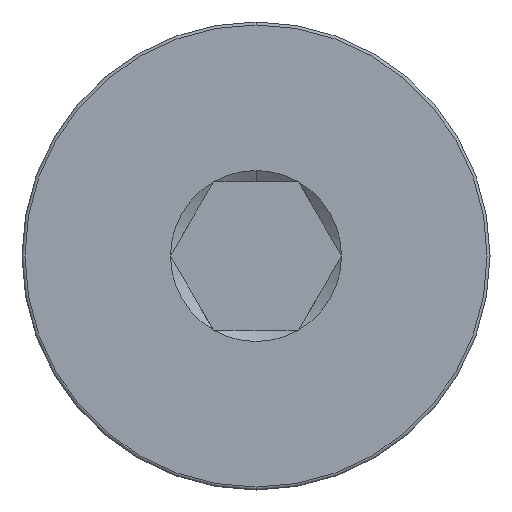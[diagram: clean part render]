
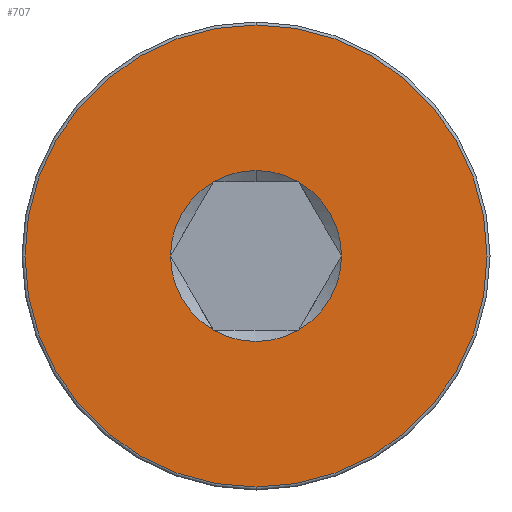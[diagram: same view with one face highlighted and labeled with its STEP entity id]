
A CAD part, left-side view. The second image highlights one B-rep face of the part: STEP entity #707.
In plain terms, the highlighted planar face has unit normal (-1, 0, 0).
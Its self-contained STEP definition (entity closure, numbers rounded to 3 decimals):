
#3 = AXIS2_PLACEMENT_3D ( 'NONE', #218, #152, #458 ) ;
#9 = EDGE_CURVE ( 'NONE', #222, #651, #524, .T. ) ;
#39 = CARTESIAN_POINT ( 'NONE',  ( 0., 2.887, 0. ) ) ;
#59 = CIRCLE ( 'NONE', #430, 2.887 ) ;
#61 = DIRECTION ( 'NONE',  ( 0., 0., -1. ) ) ;
#79 = CIRCLE ( 'NONE', #403, 2.887 ) ;
#80 = AXIS2_PLACEMENT_3D ( 'NONE', #111, #719, #411 ) ;
#107 = EDGE_CURVE ( 'NONE', #651, #222, #244, .T. ) ;
#111 = CARTESIAN_POINT ( 'NONE',  ( 0., 0., 0. ) ) ;
#112 = AXIS2_PLACEMENT_3D ( 'NONE', #454, #637, #280 ) ;
#122 = DIRECTION ( 'NONE',  ( 1., 0., 0. ) ) ;
#126 = CARTESIAN_POINT ( 'NONE',  ( 0., 0., 0. ) ) ;
#128 = DIRECTION ( 'NONE',  ( 0., 0., 1. ) ) ;
#131 = DIRECTION ( 'NONE',  ( 1., 0., 0. ) ) ;
#141 = AXIS2_PLACEMENT_3D ( 'NONE', #495, #667, #128 ) ;
#145 = ORIENTED_EDGE ( 'NONE', *, *, #513, .T. ) ;
#147 = CARTESIAN_POINT ( 'NONE',  ( 0., 0., 2.887 ) ) ;
#152 = DIRECTION ( 'NONE',  ( 1., 0., 0. ) ) ;
#156 = AXIS2_PLACEMENT_3D ( 'NONE', #177, #301, #307 ) ;
#159 = VERTEX_POINT ( 'NONE', #481 ) ;
#161 = EDGE_CURVE ( 'NONE', #578, #185, #59, .T. ) ;
#170 = CIRCLE ( 'NONE', #525, 2.887 ) ;
#177 = CARTESIAN_POINT ( 'NONE',  ( 0., 0., 0. ) ) ;
#179 = CARTESIAN_POINT ( 'NONE',  ( 0., 0., 0. ) ) ;
#185 = VERTEX_POINT ( 'NONE', #147 ) ;
#189 = ORIENTED_EDGE ( 'NONE', *, *, #474, .T. ) ;
#193 = AXIS2_PLACEMENT_3D ( 'NONE', #179, #399, #660 ) ;
#218 = CARTESIAN_POINT ( 'NONE',  ( 0., 0., 0. ) ) ;
#219 = AXIS2_PLACEMENT_3D ( 'NONE', #266, #625, #563 ) ;
#222 = VERTEX_POINT ( 'NONE', #335 ) ;
#228 = CARTESIAN_POINT ( 'NONE',  ( 0., 1.443, 2.5 ) ) ;
#229 = CARTESIAN_POINT ( 'NONE',  ( 0., -1.443, -2.5 ) ) ;
#244 = CIRCLE ( 'NONE', #141, 7.8 ) ;
#254 = CARTESIAN_POINT ( 'NONE',  ( 0., 0., 0. ) ) ;
#255 = EDGE_CURVE ( 'NONE', #336, #350, #712, .T. ) ;
#266 = CARTESIAN_POINT ( 'NONE',  ( 0., 0., 0. ) ) ;
#280 = DIRECTION ( 'NONE',  ( 0., 0., -1. ) ) ;
#281 = EDGE_CURVE ( 'NONE', #159, #754, #670, .T. ) ;
#291 = EDGE_CURVE ( 'NONE', #350, #353, #560, .T. ) ;
#301 = DIRECTION ( 'NONE',  ( -1., 0., 0. ) ) ;
#307 = DIRECTION ( 'NONE',  ( 0., 0., 1. ) ) ;
#335 = CARTESIAN_POINT ( 'NONE',  ( 0., 0., -7.8 ) ) ;
#336 = VERTEX_POINT ( 'NONE', #717 ) ;
#350 = VERTEX_POINT ( 'NONE', #779 ) ;
#353 = VERTEX_POINT ( 'NONE', #229 ) ;
#376 = CARTESIAN_POINT ( 'NONE',  ( 0., 0., 0. ) ) ;
#384 = ORIENTED_EDGE ( 'NONE', *, *, #107, .T. ) ;
#399 = DIRECTION ( 'NONE',  ( -1., 0., 0. ) ) ;
#403 = AXIS2_PLACEMENT_3D ( 'NONE', #254, #131, #480 ) ;
#406 = EDGE_LOOP ( 'NONE', ( #145, #508, #189, #595, #503, #449, #655 ) ) ;
#407 = FACE_BOUND ( 'NONE', #406, .T. ) ;
#411 = DIRECTION ( 'NONE',  ( 0., 0., -1. ) ) ;
#414 = EDGE_LOOP ( 'NONE', ( #384, #520 ) ) ;
#430 = AXIS2_PLACEMENT_3D ( 'NONE', #376, #122, #737 ) ;
#449 = ORIENTED_EDGE ( 'NONE', *, *, #722, .T. ) ;
#454 = CARTESIAN_POINT ( 'NONE',  ( 0., 0., 0. ) ) ;
#458 = DIRECTION ( 'NONE',  ( 0., 0., -1. ) ) ;
#459 = CIRCLE ( 'NONE', #80, 2.887 ) ;
#474 = EDGE_CURVE ( 'NONE', #185, #336, #170, .T. ) ;
#480 = DIRECTION ( 'NONE',  ( 0., 0., -1. ) ) ;
#481 = CARTESIAN_POINT ( 'NONE',  ( 0., 1.443, -2.5 ) ) ;
#495 = CARTESIAN_POINT ( 'NONE',  ( 0., 0., 0. ) ) ;
#503 = ORIENTED_EDGE ( 'NONE', *, *, #291, .T. ) ;
#508 = ORIENTED_EDGE ( 'NONE', *, *, #161, .T. ) ;
#513 = EDGE_CURVE ( 'NONE', #754, #578, #79, .T. ) ;
#520 = ORIENTED_EDGE ( 'NONE', *, *, #9, .T. ) ;
#524 = CIRCLE ( 'NONE', #193, 7.8 ) ;
#525 = AXIS2_PLACEMENT_3D ( 'NONE', #126, #736, #61 ) ;
#560 = CIRCLE ( 'NONE', #219, 2.887 ) ;
#563 = DIRECTION ( 'NONE',  ( 0., 0., -1. ) ) ;
#578 = VERTEX_POINT ( 'NONE', #228 ) ;
#588 = CARTESIAN_POINT ( 'NONE',  ( 0., 0., 7.8 ) ) ;
#592 = PLANE ( 'NONE',  #156 ) ;
#595 = ORIENTED_EDGE ( 'NONE', *, *, #255, .T. ) ;
#625 = DIRECTION ( 'NONE',  ( 1., 0., 0. ) ) ;
#637 = DIRECTION ( 'NONE',  ( 1., 0., 0. ) ) ;
#651 = VERTEX_POINT ( 'NONE', #588 ) ;
#655 = ORIENTED_EDGE ( 'NONE', *, *, #281, .T. ) ;
#660 = DIRECTION ( 'NONE',  ( 0., 0., 1. ) ) ;
#667 = DIRECTION ( 'NONE',  ( -1., 0., 0. ) ) ;
#670 = CIRCLE ( 'NONE', #112, 2.887 ) ;
#707 = ADVANCED_FACE ( 'NONE', ( #407, #716 ), #592, .T. ) ;
#712 = CIRCLE ( 'NONE', #3, 2.887 ) ;
#716 = FACE_OUTER_BOUND ( 'NONE', #414, .T. ) ;
#717 = CARTESIAN_POINT ( 'NONE',  ( 0., -1.443, 2.5 ) ) ;
#719 = DIRECTION ( 'NONE',  ( 1., 0., 0. ) ) ;
#722 = EDGE_CURVE ( 'NONE', #353, #159, #459, .T. ) ;
#736 = DIRECTION ( 'NONE',  ( 1., 0., 0. ) ) ;
#737 = DIRECTION ( 'NONE',  ( 0., 0., -1. ) ) ;
#754 = VERTEX_POINT ( 'NONE', #39 ) ;
#779 = CARTESIAN_POINT ( 'NONE',  ( 0., -2.887, 0. ) ) ;
